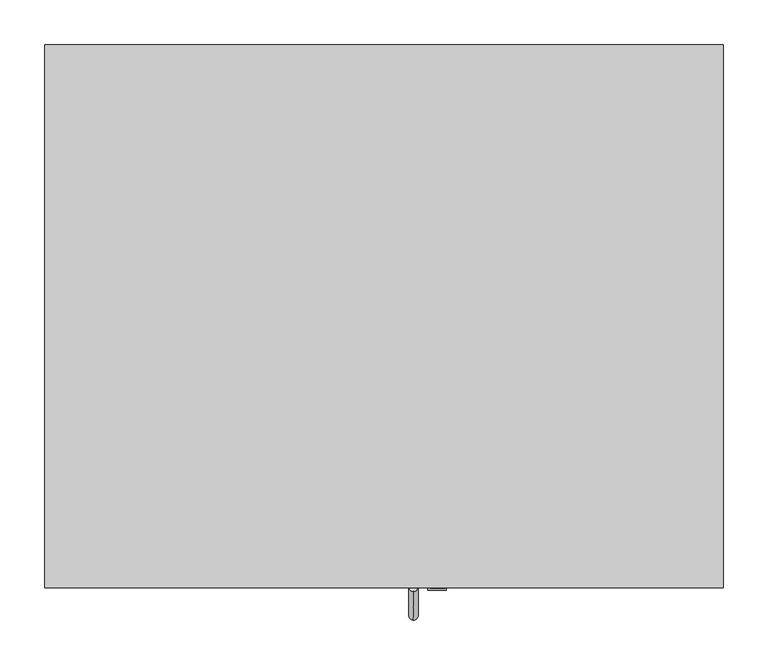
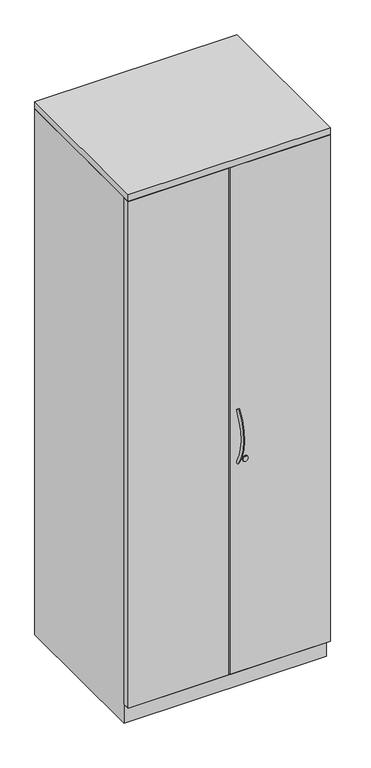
"""IFC4 building model written with IfcOpenShell, lengths in millimetres: furniture geometry, Steelcase - Universal Storage - Cabinet - Storage - 66H-84H - Proud Steel : 84H x 23 1/8D x 30W."""

from ifc_helpers import new_model, si_unit, point, frame, frame_2d, origin, place, context, project, spatial, polyline, circle_curve, ellipse_curve, trimmed, segment, composite_curve, outline, extrude, faceted_brep, source, transform, mapped, element, save
from ifc_brep_helpers import plane_surface, revolved_surface, advanced_brep


def furniture_b5ad19d4(model_context):
    return source(origin(), model_context, "Body", "SolidModel", [
        extrude(outline(polyline([(762.0, 0.0), (762.0, -609.6), (0.0, -609.6), (0.0, 0.0), (762.0, 0.0)])), frame((0.0, 0.0, 2095.5), z_axis=(0.0, 0.0, 1.0), x_axis=(1.0, 0.0, 0.0)), (0.0, 0.0, 1.0), 25.4),
        extrude(outline(polyline([(0.0, -609.6), (0.0, -584.2008418), (378.46, -584.2008418), (378.46, -609.6), (0.0, -609.6)])), frame((0.0, 0.0, 77.724), z_axis=(0.0, 0.0, 1.0), x_axis=(1.0, 0.0, 0.0)), (0.0, 0.0, 1.0), 2016.252),
        extrude(outline(polyline([(762.0, -584.2008418), (762.0, -609.6), (383.54, -609.6), (383.54, -584.2008418), (762.0, -584.2008418)])), frame((0.0, 0.0, 77.724), z_axis=(0.0, 0.0, 1.0), x_axis=(1.0, 0.0, 0.0)), (0.0, 0.0, 1.0), 2016.252),
        extrude(outline(composite_curve([segment(trimmed(circle_curve(frame_2d((917.702, 440.5418131)), 10.16), [point((917.702, 450.7018131))], [point((917.702, 430.3818131))], False, "CARTESIAN"), True, "CONTINUOUS"), segment(trimmed(circle_curve(frame_2d((917.702, 440.5418131)), 10.16), [point((917.702, 430.3818131))], [point((917.702, 450.7018131))], False, "CARTESIAN"), True, "CONTINUOUS")], self_intersect=False)), frame((0.0, -612.013031, 0.0), z_axis=(0.0, 1.0, 0.0), x_axis=(0.0, 0.0, 1.0)), (0.0, 0.0, 1.0), 2.413031),
        advanced_brep(
        [(414.0783765, -605.0224318, 1119.7196018), (414.0783765, -613.6221633, 1125.3900503), (414.0783765, -602.5951581, 911.9931915), (414.0783765, -611.0600418, 906.1233437)],
        [
            (0, 1, circle_curve(frame((414.0783765, -609.3222976, 1122.5548261), z_axis=(0.0, 0.5504787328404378, 0.83484918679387), x_axis=(0.0, -0.83484918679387, 0.5504787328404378)), 5.1504701)),
            (1, 0, circle_curve(frame((414.0783765, -609.3222976, 1122.5548261), z_axis=(0.0, 0.5504787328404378, 0.83484918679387), x_axis=(0.0, -0.83484918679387, 0.5504787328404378)), 5.1504701)),
            (2, 3, circle_curve(frame((414.0783765, -606.8276, 909.0582676), z_axis=(0.0, 0.5698361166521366, -0.8217583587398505), x_axis=(0.0, -0.8217583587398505, -0.5698361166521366)), 5.1504701)),
            (3, 2, circle_curve(frame((414.0783765, -606.8276, 909.0582676), z_axis=(0.0, 0.5698361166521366, -0.8217583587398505), x_axis=(0.0, -0.8217583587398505, -0.5698361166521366)), 5.1504701)),
            (3, 1, circle_curve(frame((414.0783765, -450.226461, 1017.6509992), z_axis=(-1.0, 0.0, 0.0), x_axis=(0.0, -0.83484918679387, 0.5504787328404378)), 195.7188256)),
            (0, 2, circle_curve(frame((414.0783765, -450.226461, 1017.6509992), z_axis=(1.0, 0.0, 0.0), x_axis=(0.0, -0.83484918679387, 0.5504787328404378)), 185.4178854)),
        ],
        [
            plane_surface(frame((414.0783765, -609.3222976, 1122.5548261), z_axis=(0.0, 0.5504787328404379, 0.83484918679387), x_axis=(-1.0, 0.0, 0.0))),
            plane_surface(frame((414.0783765, -606.8276, 909.0582676), z_axis=(0.0, 0.5698361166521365, -0.8217583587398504), x_axis=(-1.0, 0.0, 0.0))),
            revolved_surface(trimmed(ellipse_curve(frame((414.0783765, -609.3222976, 1122.5548261), z_axis=(0.0, 0.5504787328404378, 0.83484918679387), x_axis=(0.0, -0.83484918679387, 0.5504787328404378)), 5.1504701, 5.1504701), [point((414.0783765, -605.0224318, 1119.7196018))], [point((414.0783765, -613.6221633, 1125.3900503))], True, "CARTESIAN"), (414.0783765, -450.226461, 1017.6509992), (1.0, 0.0, 0.0)),
            revolved_surface(trimmed(ellipse_curve(frame((414.0783765, -609.3222976, 1122.5548261), z_axis=(0.0, 0.5504787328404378, 0.83484918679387), x_axis=(0.0, -0.83484918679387, 0.5504787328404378)), 5.1504701, 5.1504701), [point((414.0783765, -613.6221633, 1125.3900503))], [point((414.0783765, -605.0224318, 1119.7196018))], True, "CARTESIAN"), (414.0783765, -450.226461, 1017.6509992), (1.0, 0.0, 0.0)),
        ],
        [
            (0, [[1, 2]]),
            (1, [[3, 4]]),
            (2, [[5, -1, 6, -4]]),
            (3, [[-6, -2, -5, -3]]),
        ],
    ),
        extrude(outline(composite_curve([segment(trimmed(circle_curve(frame_2d((919.3669832, 440.8109835)), 9.7167829), [point((919.3669832, 450.5277664))], [point((919.3669832, 431.0942006))], False, "CARTESIAN"), True, "CONTINUOUS"), segment(trimmed(circle_curve(frame_2d((919.3669832, 440.8109835)), 9.7167829), [point((919.3669832, 431.0942006))], [point((919.3669832, 450.5277664))], False, "CARTESIAN"), True, "CONTINUOUS")], self_intersect=False)), frame((0.0, -610.2695275, 0.0), z_axis=(0.0, 1.0, 0.0), x_axis=(0.0, 0.0, 1.0)), (0.0, 0.0, 1.0), 0.6695275),
        faceted_brep([(762.0, 0.0, 0.0), (762.0, -582.6768432, 0.0), (0.0, -582.6768432, 0.0), (0.0, 0.0, 0.0), (0.0, 0.0, 2093.976), (762.0, 0.0, 2093.976), (0.0, -582.6768432, 76.2), (0.0, -609.6, 76.2), (0.0, -609.6, 77.724), (0.0, -582.6768432, 77.724), (0.0, -582.6768432, 2093.976), (762.0, -582.6768432, 76.2), (762.0, -582.6768432, 2093.976), (762.0, -582.6768432, 77.724), (762.0, -609.4738418, 77.724), (762.0, -609.6, 76.2), (736.6000242, -25.4000008, 2093.976), (736.6000242, -582.6768432, 2093.976), (25.3999758, -582.6768432, 2093.976), (25.3999758, -25.4000008, 2093.976), (736.6000242, -25.4000008, 77.724), (736.6000242, -582.6768432, 77.724), (25.3999758, -582.6768432, 77.724), (25.3999758, -25.4000008, 77.724), (4.6981334, -584.2008418, 77.724), (736.6000242, -584.2008418, 77.724)], [[[0, 1, 2, 3]], [[0, 3, 4, 5]], [[4, 3, 2, 6, 7, 8, 9, 10]], [[2, 1, 11, 6]], [[1, 0, 5, 12, 13, 14, 15, 11]], [[16, 17, 12, 5, 4, 10, 18, 19]], [[17, 16, 20, 21]], [[12, 17, 21, 13]], [[18, 10, 9, 22]], [[19, 18, 22, 23]], [[16, 19, 23, 20]], [[8, 24, 25, 14, 13, 21, 20, 23, 22, 9]], [[15, 7, 6, 11]], [[24, 8, 7]], [[25, 24, 7, 15]], [[14, 25, 15]]]),
    ])


if __name__ == "__main__":
    model = new_model("IFC4")
    model_context = context("Model", 3, world=origin())
    ifc_project = project(units=[si_unit("LENGTHUNIT", "METRE", prefix="MILLI")], contexts=[model_context])
    site = spatial("IfcSite", under=ifc_project)
    building = spatial("IfcBuilding", under=site)
    placement = place(None, origin())
    furniture_shape = furniture_b5ad19d4(model_context)
    element("IfcFurniture", 1, ObjectType="Steelcase - Universal Storage - Cabinet - Storage - 66H-84H - Proud Steel : 84H x 23 1/8D x 30W", at=placement, inside=building, context=model_context, shape_type="MappedRepresentation", body=[
        mapped(furniture_shape, transform((0.0, 0.0, 0.0), x_axis=(1.0, 0.0, 0.0), y_axis=(0.0, 1.0, 0.0), z_axis=(0.0, 0.0, 1.0))),
    ])
    save(model, "model.ifc")
